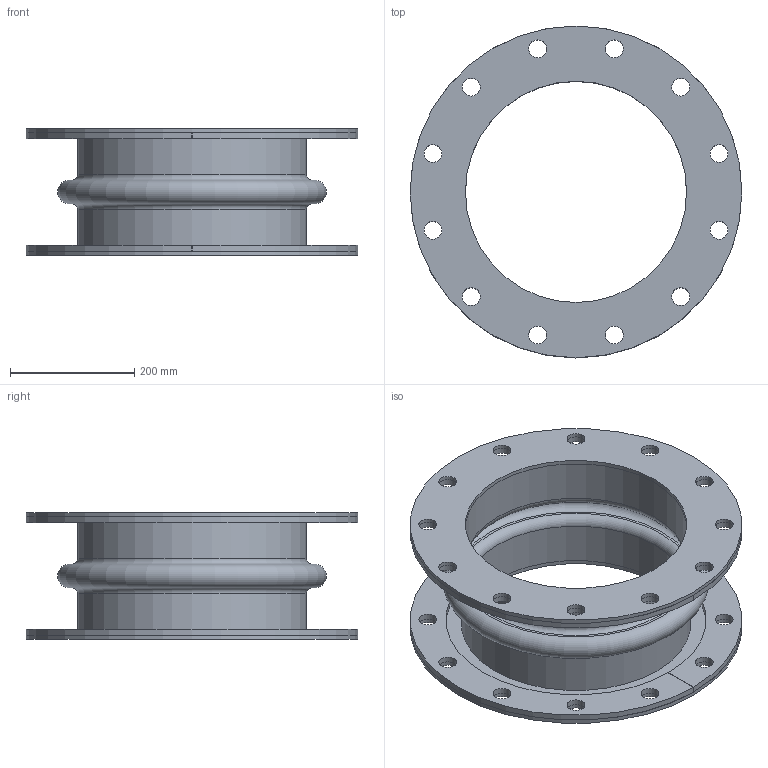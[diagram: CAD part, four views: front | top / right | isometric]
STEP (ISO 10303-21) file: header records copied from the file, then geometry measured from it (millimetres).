
FILE_DESCRIPTION(/* description */ (''),/* implementation_level */ '2;1');
FILE_NAME(/* name */ '14x8.stp',/* time_stamp */ '2026-07-21T16:16:56-05:00',/* author */ ('linda'),/* organization */ (''),/* preprocessor_version */ 'ST-DEVELOPER v20.1',/* originating_system */ 'Autodesk Inventor 2026',/* authorisation */ '');
FILE_SCHEMA (('AUTOMOTIVE_DESIGN { 1 0 10303 214 3 1 1 }'));
Length unit declared in the file: inch
Products named in the file (1): Part16
Bounding box: 533.4 x 533.4 x 203.2 mm (x, y, z)
Volume: 4683278.7 mm3; surface area: 1436426.5 mm2
Topology: 5 solids, 5 shells, 94 faces, 234 edges, 156 vertices
Faces by surface type: cylinder 64, plane 24, torus 6
Full cylindrical faces by diameter (mm): 28.702 x48, 355.6 x4, 368.3 x2, 533.4 x2
Entity records: 3233 total; most frequent: DIRECTION 570, CARTESIAN_POINT 485, ORIENTED_EDGE 468, AXIS2_PLACEMENT_3D 241, EDGE_CURVE 234, EDGE_LOOP 198, VERTEX_POINT 156, CIRCLE 146
